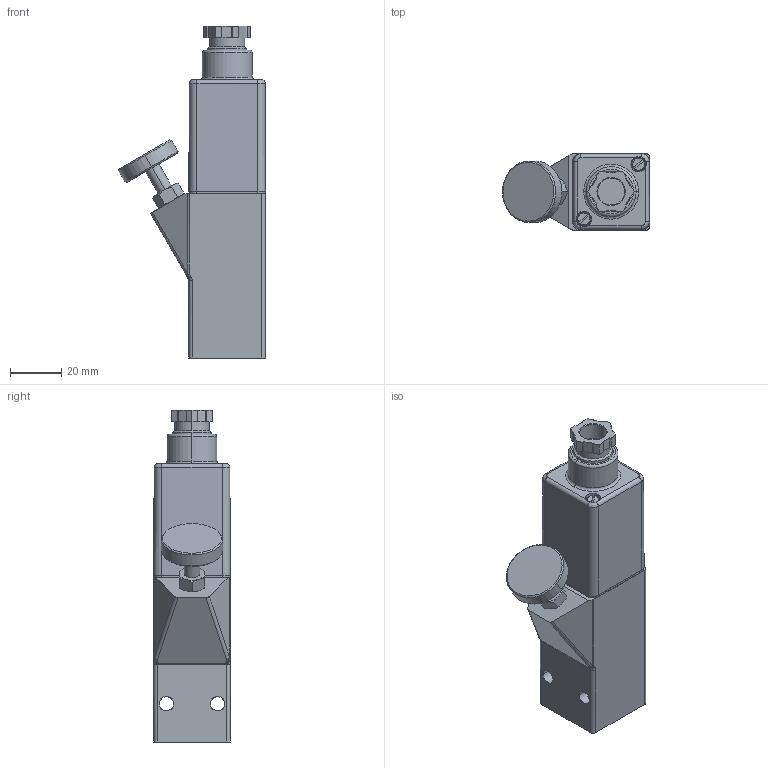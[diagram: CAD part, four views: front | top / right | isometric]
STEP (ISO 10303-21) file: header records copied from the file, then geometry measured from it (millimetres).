
FILE_DESCRIPTION(('OneSpaceDesigner STEP Export'),'2;1');
FILE_NAME('0159-43414-1-001.stp','2007-09-26T13:36:13',(''),(''),'OneSpace Designer STEP processor for AP214 (Solid Model)','OneSpace Designer 14.00B 27-May-2006 (C) CoCreate Software GmbH','');
FILE_SCHEMA(('AUTOMOTIVE_DESIGN { 1 0 10303 214 1 1 1 1 }'));
Length unit declared in the file: millimetre
Products named in the file (2): 0159
Assembly tree (1 placements, depth 2):
  0159
    0159
Bounding box: 57.51 x 30 x 129.85 mm (x, y, z)
Volume: 108245.1 mm3; surface area: 19685.2 mm2
Topology: 1 solids, 1 shells, 187 faces, 460 edges, 288 vertices
Faces by surface type: plane 78, cylinder 45, cone 34, bspline 16, torus 14
Entity records: 7385 total; most frequent: CARTESIAN_POINT 3427, ORIENTED_EDGE 920, DIRECTION 623, EDGE_CURVE 460, VERTEX_POINT 288, AXIS2_PLACEMENT_3D 209, VECTOR 205, LINE 205
